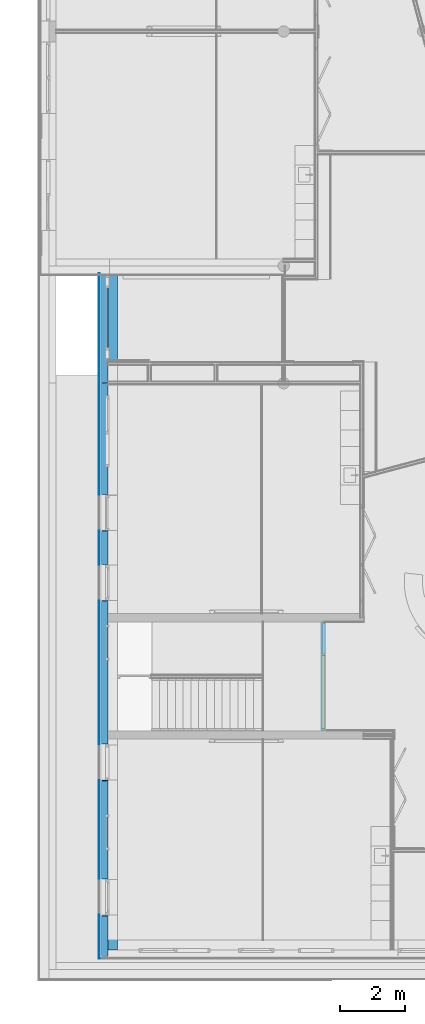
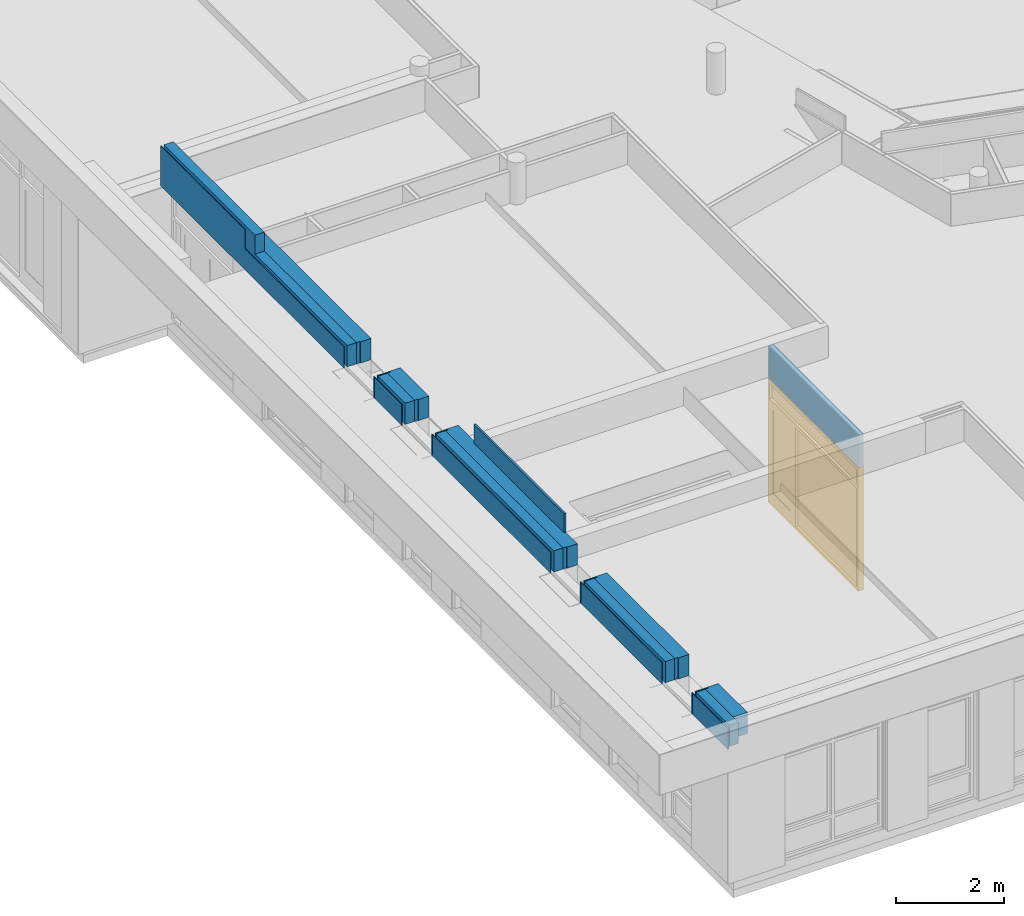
# One storey, part 48 of 167: 3 building element parts, 1 door, 5 openings, 2 elements without a shape of their own, plus 3 elements that do not belong to this part.
"""IFC2X3 building model written with IfcOpenShell, lengths in millimetres."""

from ifc_helpers import new_model, entity, si_unit, converted_unit, derived_unit, money_unit, direction, frame, origin_with_axes, place, context, subcontext, project, spatial, open_shell, faceted_brep, surface_model, material, type_object, element, fill, aggregate, save


model = new_model("IFC2X3")

# Units and contexts
model_context = context("Model", 3, precision=0.01, world=origin_with_axes(), true_north=direction((0.0, 1.0)))
plan_context = context("Plan", 3, precision=0.01, world=origin_with_axes(), true_north=direction((0.0, 1.0)))
body_context = subcontext(model_context, "Body", "Model", "MODEL_VIEW")
ifc_project = project(units=[si_unit("LENGTHUNIT", "METRE", prefix="MILLI"), si_unit("AREAUNIT", "SQUARE_METRE"), si_unit("VOLUMEUNIT", "CUBIC_METRE"), converted_unit("PLANEANGLEUNIT", "DEGREE", entity("IfcPlaneAngleMeasure", 0.0174532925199), si_unit("PLANEANGLEUNIT", "RADIAN"), dimensions=[0, 0, 0, 0, 0, 0, 0]), si_unit("SOLIDANGLEUNIT", "STERADIAN"), money_unit("EUR"), converted_unit("TIMEUNIT", "Year", entity("IfcTimeMeasure", 31556926.0), si_unit("TIMEUNIT", "SECOND"), dimensions=[0, 0, 1, 0, 0, 0, 0]), si_unit("MASSUNIT", "GRAM", prefix="KILO"), si_unit("THERMODYNAMICTEMPERATUREUNIT", "DEGREE_CELSIUS"), si_unit("LUMINOUSINTENSITYUNIT", "LUMEN"), si_unit("ENERGYUNIT", "JOULE", prefix="MEGA"), derived_unit("THERMALCONDUCTANCEUNIT", [(si_unit("POWERUNIT", "WATT"), 1), (si_unit("LENGTHUNIT", "METRE"), -1), (si_unit("THERMODYNAMICTEMPERATUREUNIT", "KELVIN"), -1)]), derived_unit("SPECIFICHEATCAPACITYUNIT", [(si_unit("ENERGYUNIT", "JOULE"), 1), (si_unit("MASSUNIT", "GRAM", prefix="KILO"), -1), (si_unit("THERMODYNAMICTEMPERATUREUNIT", "KELVIN"), -1)]), derived_unit("MASSDENSITYUNIT", [(si_unit("MASSUNIT", "GRAM", prefix="KILO"), 1), (si_unit("VOLUMEUNIT", "CUBIC_METRE"), -1)])], contexts=[model_context, plan_context])

# Site, building, storey
site_placement = place(None, origin_with_axes())
site = spatial("IfcSite", under=ifc_project, at=site_placement, Name="Site", CompositionType="ELEMENT")
building_placement = place(site_placement, origin_with_axes())
building = spatial("IfcBuilding", under=site, at=building_placement, Name="Naam gebouw", CompositionType="ELEMENT")
storey_placement = place(building_placement, origin_with_axes())
storey = spatial("IfcBuildingStorey", under=building, at=storey_placement, Name="Begane grond", CompositionType="ELEMENT", Elevation=0.0)

# Door
door_style = type_object("IfcDoorStyle", Name="D1 bl zl1-b 24", ConstructionType="NOTDEFINED", OperationType="SINGLE_SWING_RIGHT", ParameterTakesPrecedence=False, Sizeable=False)
wall_2_placement = place(storey_placement, frame((8419.25215922, 7325.0, -100.0), z_axis=(0.0, 0.0, 1.0), x_axis=(0.0, 1.0, 0.0)))
opening_5_placement = place(wall_2_placement, frame((1675.0, 0.0, 100.0), z_axis=(0.0, 0.0, 1.0), x_axis=(1.0, 0.0, 0.0)))
door_placement = place(opening_5_placement, frame((-1675.0, 0.0, 0.0), z_axis=(0.0, 0.0, 1.0), x_axis=(1.0, 0.0, 0.0)))
door = element("IfcDoor", 1, at=door_placement, inside=storey, type_object=door_style, Name="32_Deur_Hi-44", ObjectType="DOOR", OverallHeight=2800.0, OverallWidth=3350.0, context=body_context, shape_type="SurfaceModel", body=[
    faceted_brep([(0.0, 64.0, 0.0), (67.0, 64.0, 0.0), (67.0, -50.0, 0.0), (0.0, -50.0, 0.0), (0.0, 64.0, 2733.0), (67.0, 64.0, 2733.0), (67.0, 64.0, 2375.0), (67.0, 64.0, 2300.0), (67.0, 64.0, 67.0), (67.0, -50.0, 67.0), (67.0, -50.0, 2300.0), (67.0, -50.0, 2375.0), (67.0, -50.0, 2733.0), (0.0, -50.0, 2733.0)], [[[0, 1, 2, 3]], [[0, 4, 5, 6, 7, 8, 1]], [[1, 8, 9, 2]], [[3, 2, 9, 10, 11, 12, 13]], [[4, 0, 3, 13]], [[5, 4, 13, 12]], [[6, 5, 12, 11]], [[7, 6, 11, 10]], [[8, 7, 10, 9]]]),
    faceted_brep([(2383.0, 24.0, 0.0), (2383.0, 24.0, 2300.0), (2383.0, -50.0, 2300.0), (2383.0, -50.0, 0.0), (2358.0, 24.0, 2300.0), (2358.0, 24.0, 0.0), (2358.0, 64.0, 2300.0), (2316.0, 64.0, 2300.0), (2316.0, -50.0, 2300.0), (2316.0, -50.0, 0.0), (2316.0, -50.0, 67.0), (2316.0, 64.0, 0.0), (2358.0, 64.0, 0.0), (2316.0, 64.0, 67.0)], [[[0, 1, 2, 3]], [[4, 1, 0, 5]], [[4, 6, 7, 8, 2, 1]], [[9, 3, 2, 8, 10]], [[5, 0, 3, 9, 11, 12]], [[6, 4, 5, 12]], [[6, 12, 11, 13, 7]], [[13, 10, 8, 7]], [[11, 9, 10, 13]]]),
    faceted_brep([(67.0, 64.0, 67.0), (67.0, 64.0, 0.0), (67.0, -50.0, 0.0), (67.0, -50.0, 67.0), (2316.0, 64.0, 67.0), (2316.0, 64.0, 0.0), (2316.0, -50.0, 0.0), (2316.0, -50.0, 67.0)], [[[0, 1, 2, 3]], [[0, 4, 5, 1]], [[1, 5, 6, 2]], [[3, 2, 6, 7]], [[4, 0, 3, 7]], [[5, 4, 7, 6]]]),
    faceted_brep([(3308.0, 64.0, 2325.0), (3283.0, 64.0, 2325.0), (3283.0, 64.0, 2375.0), (3283.0, 64.0, 2733.0), (3350.0, 64.0, 2733.0), (3350.0, 64.0, 0.0), (3308.0, 64.0, 0.0), (3308.0, 24.0, 2325.0), (3283.0, 24.0, 2325.0), (3283.0, 24.0, 0.0), (3283.0, -50.0, 0.0), (3283.0, -50.0, 2300.0), (3283.0, -50.0, 2375.0), (3283.0, -50.0, 2733.0), (3350.0, -50.0, 2733.0), (3350.0, -50.0, 0.0), (3308.0, 24.0, 0.0)], [[[0, 1, 2, 3, 4, 5, 6]], [[1, 0, 7, 8]], [[8, 9, 10, 11, 12, 2, 1]], [[2, 12, 13, 3]], [[3, 13, 14, 4]], [[4, 14, 15, 5]], [[16, 6, 5, 15, 10, 9]], [[0, 6, 16, 7]], [[16, 9, 8, 7]], [[12, 11, 10, 15, 14, 13]]]),
    faceted_brep([(0.0, 64.0, 2800.0), (0.0, 64.0, 2733.0), (0.0, -50.0, 2733.0), (0.0, -50.0, 2800.0), (3350.0, 64.0, 2800.0), (3350.0, 64.0, 2733.0), (3283.0, 64.0, 2733.0), (67.0, 64.0, 2733.0), (67.0, -50.0, 2733.0), (3283.0, -50.0, 2733.0), (3350.0, -50.0, 2733.0), (3350.0, -50.0, 2800.0)], [[[0, 1, 2, 3]], [[0, 4, 5, 6, 7, 1]], [[1, 7, 8, 2]], [[3, 2, 8, 9, 10, 11]], [[4, 0, 3, 11]], [[5, 4, 11, 10]], [[6, 5, 10, 9]], [[7, 6, 9, 8]]]),
    faceted_brep([(3283.0, 24.0, 2325.0), (3283.0, 64.0, 2325.0), (3283.0, 64.0, 2375.0), (3283.0, -50.0, 2375.0), (3283.0, -50.0, 2300.0), (3283.0, 24.0, 2300.0), (2358.0, 24.0, 2325.0), (2358.0, 64.0, 2325.0), (2358.0, 64.0, 2300.0), (2316.0, 64.0, 2300.0), (67.0, 64.0, 2300.0), (67.0, 64.0, 2375.0), (67.0, -50.0, 2375.0), (2383.0, -50.0, 2300.0), (67.0, -50.0, 2300.0), (2316.0, -50.0, 2300.0), (2383.0, 24.0, 2300.0), (2358.0, 24.0, 2300.0)], [[[0, 1, 2, 3, 4, 5]], [[1, 0, 6, 7]], [[7, 8, 9, 10, 11, 2, 1]], [[11, 12, 3, 2]], [[13, 4, 3, 12, 14, 15]], [[16, 5, 4, 13]], [[0, 5, 16, 17, 6]], [[8, 7, 6, 17]], [[17, 16, 13, 15, 9, 8]], [[9, 15, 14, 10]], [[10, 14, 12, 11]]]),
    faceted_brep([(3308.0, 64.0, 300.0), (3308.0, 24.0, 300.0), (3158.0, 24.0, 300.0), (3158.0, 64.0, 300.0), (3308.0, 64.0, 2175.0), (3308.0, 24.0, 2175.0), (3158.0, 24.0, 2175.0), (3158.0, 64.0, 2175.0)], [[[0, 1, 2, 3]], [[4, 5, 1, 0]], [[1, 5, 6, 2]], [[3, 2, 6, 7]], [[0, 3, 7, 4]], [[7, 6, 5, 4]]]),
    faceted_brep([(2358.0, 64.0, 300.0), (2358.0, 24.0, 300.0), (2358.0, 24.0, 2175.0), (2358.0, 64.0, 2175.0), (2508.0, 64.0, 300.0), (2508.0, 24.0, 300.0), (2508.0, 24.0, 2175.0), (2508.0, 64.0, 2175.0)], [[[0, 1, 2, 3]], [[4, 5, 1, 0]], [[1, 5, 6, 2]], [[3, 2, 6, 7]], [[0, 3, 7, 4]], [[7, 6, 5, 4]]]),
    faceted_brep([(3308.0, 64.0, 0.0), (3308.0, 24.0, 0.0), (2358.0, 24.0, 0.0), (2358.0, 64.0, 0.0), (3308.0, 64.0, 300.0), (3308.0, 24.0, 300.0), (3158.0, 24.0, 300.0), (2508.0, 24.0, 300.0), (2358.0, 24.0, 300.0), (2358.0, 64.0, 300.0), (2508.0, 64.0, 300.0), (3158.0, 64.0, 300.0)], [[[0, 1, 2, 3]], [[4, 5, 1, 0]], [[1, 5, 6, 7, 8, 2]], [[3, 2, 8, 9]], [[0, 3, 9, 10, 11, 4]], [[11, 6, 5, 4]], [[10, 7, 6, 11]], [[9, 8, 7, 10]]]),
    faceted_brep([(3308.0, 64.0, 2325.0), (3308.0, 24.0, 2325.0), (3308.0, 24.0, 2175.0), (3308.0, 64.0, 2175.0), (2358.0, 64.0, 2325.0), (2358.0, 24.0, 2325.0), (2358.0, 24.0, 2175.0), (2508.0, 24.0, 2175.0), (3158.0, 24.0, 2175.0), (3158.0, 64.0, 2175.0), (2508.0, 64.0, 2175.0), (2358.0, 64.0, 2175.0)], [[[0, 1, 2, 3]], [[4, 5, 1, 0]], [[1, 5, 6, 7, 8, 2]], [[3, 2, 8, 9]], [[0, 3, 9, 10, 11, 4]], [[11, 6, 5, 4]], [[10, 7, 6, 11]], [[9, 8, 7, 10]]]),
    surface_model("IfcShellBasedSurfaceModel", [(3158.0, 50.0, 300.0), (2508.0, 50.0, 300.0), (2508.0, 50.0, 2175.0), (3158.0, 50.0, 2175.0)], [open_shell([[[0, 1, 2, 3]]])]),
    surface_model("IfcShellBasedSurfaceModel", [(3158.0, 38.0, 300.0), (3158.0, 38.0, 2175.0), (2508.0, 38.0, 2175.0), (2508.0, 38.0, 300.0)], [open_shell([[[0, 1, 2, 3]]])]),
    surface_model("IfcShellBasedSurfaceModel", [(67.0, 10.0, 2375.0), (67.0, 10.0, 2733.0), (3283.0, 10.0, 2733.0), (3283.0, 10.0, 2375.0)], [open_shell([[[0, 1, 2, 3]]])]),
    surface_model("IfcShellBasedSurfaceModel", [(67.0, -2.0, 2375.0), (3283.0, -2.0, 2375.0), (3283.0, -2.0, 2733.0), (67.0, -2.0, 2733.0)], [open_shell([[[0, 1, 2, 3]]])]),
    surface_model("IfcShellBasedSurfaceModel", [(67.0, 10.0, 67.0), (67.0, 10.0, 2300.0), (2316.0, 10.0, 2300.0), (2316.0, 10.0, 67.0)], [open_shell([[[0, 1, 2, 3]]])]),
    surface_model("IfcShellBasedSurfaceModel", [(67.0, -2.0, 67.0), (2316.0, -2.0, 67.0), (2316.0, -2.0, 2300.0), (67.0, -2.0, 2300.0)], [open_shell([[[0, 1, 2, 3]]])]),
])

# Wall, openings, building element parts
wall_type_1 = type_object("IfcWallType", Name="_TenW_21_Spouwmuur ht-kz-300- RC 4,7 574", PredefinedType="NOTDEFINED")
wall_1_placement = place(storey_placement, frame((1800.0, 21380.0, 3050.0), z_axis=(0.0, 0.0, 1.0), x_axis=(0.0, -1.0, 0.0)))
wall_1 = element("IfcWall", 2, at=wall_1_placement, inside=storey, type_object=wall_type_1, Name="21_Wand_Wand-x")
opening_1_placement = place(wall_1_placement, frame((21380.0, -1800.0, -3050.0), z_axis=(0.0, 0.0, 1.0), x_axis=(0.0, 1.0, 0.0)))
element("IfcOpeningElement", 3, at=opening_1_placement, cuts=wall_1, Name="_Lege opening_Doorvoer-x", context=body_context, shape_type="Brep", body=[
    faceted_brep([(1466.67428954, 14563.1947131, 3050.0), (1466.67428954, 14563.1947131, 3530.0), (2674.0, 14563.1947131, 3530.0), (2674.0, 14563.1947131, 3050.0), (1466.67428954, 13475.6747131, 3050.0), (1466.67428954, 13475.6747131, 3530.0), (2674.0, 13475.6747131, 3530.0), (2674.0, 13475.6747131, 3050.0)], [[[0, 1, 2, 3]], [[0, 4, 5, 1]], [[1, 5, 6, 2]], [[3, 2, 6, 7]], [[4, 0, 3, 7]], [[5, 4, 7, 6]]]),
])
opening_2_placement = place(wall_1_placement, frame((21380.0, -1800.0, -3050.0), z_axis=(0.0, 0.0, 1.0), x_axis=(0.0, 1.0, 0.0)))
element("IfcOpeningElement", 4, at=opening_2_placement, cuts=wall_1, Name="_Lege opening_Doorvoer-x", context=body_context, shape_type="Brep", body=[
    faceted_brep([(1526.0, 12413.5347131, 3050.0), (1526.0, 12413.5347131, 3530.0), (2674.0, 12413.5347131, 3530.0), (2674.0, 12413.5347131, 3050.0), (1526.0, 11326.0147131, 3050.0), (1526.0, 11326.0147131, 3530.0), (2674.0, 11326.0147131, 3530.0), (2674.0, 11326.0147131, 3050.0)], [[[0, 1, 2, 3]], [[0, 4, 5, 1]], [[1, 5, 6, 2]], [[3, 2, 6, 7]], [[4, 0, 3, 7]], [[5, 4, 7, 6]]]),
])
opening_3_placement = place(wall_1_placement, frame((21380.0, -1800.0, -3050.0), z_axis=(0.0, 0.0, 1.0), x_axis=(0.0, 1.0, 0.0)))
element("IfcOpeningElement", 5, at=opening_3_placement, cuts=wall_1, Name="_Lege opening_Doorvoer-x", context=body_context, shape_type="Brep", body=[
    faceted_brep([(1526.0, 6898.69471311, 3050.0), (1526.0, 6898.69471311, 3530.0), (2674.0, 6898.69471311, 3530.0), (2674.0, 6898.69471311, 3050.0), (1526.0, 5811.17471311, 3050.0), (1526.0, 5811.17471311, 3530.0), (2674.0, 5811.17471311, 3530.0), (2674.0, 5811.17471311, 3050.0)], [[[0, 1, 2, 3]], [[0, 4, 5, 1]], [[1, 5, 6, 2]], [[3, 2, 6, 7]], [[4, 0, 3, 7]], [[5, 4, 7, 6]]]),
])
opening_4_placement = place(wall_1_placement, frame((21380.0, -1800.0, -3050.0), z_axis=(0.0, 0.0, 1.0), x_axis=(0.0, 1.0, 0.0)))
element("IfcOpeningElement", 6, at=opening_4_placement, cuts=wall_1, Name="_Lege opening_Doorvoer-x", context=body_context, shape_type="Brep", body=[
    faceted_brep([(1526.0, 2762.56471311, 3050.0), (1526.0, 2762.56471311, 3530.0), (2674.0, 2762.56471311, 3530.0), (2674.0, 2762.56471311, 3050.0), (1526.0, 1675.04471311, 3050.0), (1526.0, 1675.04471311, 3530.0), (2674.0, 1675.04471311, 3530.0), (2674.0, 1675.04471311, 3050.0)], [[[0, 1, 2, 3]], [[0, 4, 5, 1]], [[1, 5, 6, 2]], [[3, 2, 6, 7]], [[4, 0, 3, 7]], [[5, 4, 7, 6]]]),
])
ifc_material_1 = material(Name="Steen - Kalkzandsteen C")
building_element_part_1_placement = place(wall_1_placement, origin_with_axes())
building_element_part_1 = element("IfcBuildingElementPart", 7, at=building_element_part_1_placement, material=ifc_material_1, Name="Steen - Kalkzandsteen C", context=body_context, shape_type="Brep", body=[
    faceted_brep([(19704.9552869, 82.335281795, 10.0), (19704.9552869, 82.335281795, 0.0), (19704.9552869, 0.0, 0.0), (19704.9552869, -4.0730974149e-07, 80.0), (19704.9552869, 70.0, 80.0), (19704.9552869, 70.0, 90.0), (19704.9552869, -4.58221904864e-07, 90.0), (19704.9552869, -2.44380338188e-06, 480.0), (19704.9552869, 300.0, 480.0), (19704.9552869, 300.0, 0.0), (19704.9552869, 282.0, 0.0), (19704.9552869, 282.0, 10.0), (19722.4352869, 82.335281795, 10.0), (19722.4352869, 82.335281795, 0.0), (19722.4352869, 282.0, 0.0), (20780.0, 300.0, 0.0), (20780.0, 0.0, 0.0), (19740.4352869, 0.0, 0.0), (19740.4352869, 70.0, 0.0), (19722.4352869, 70.0, 0.0), (19722.4352869, 0.0, 0.0), (19722.4352869, -3.91016996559e-07, 80.0), (19722.4352869, 70.0, 80.0), (19722.4352869, 70.0, 90.0), (19740.4352869, 70.0, 480.0), (19722.4352869, 70.0, 480.0), (19722.4352869, -4.39893454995e-07, 90.0), (19722.4352869, -2.34605224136e-06, 480.0), (20780.0, 300.0, 480.0), (19740.4352869, -2.34605224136e-06, 480.0), (20780.0, -1.28904220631e-06, 480.0), (19722.4352869, 282.0, 10.0)], [[[0, 1, 2, 3, 4, 5, 6, 7, 8, 9, 10, 11]], [[1, 0, 12, 13]], [[14, 10, 9, 15, 16, 17, 18, 19, 20, 2, 1, 13]], [[21, 3, 2, 20]], [[4, 3, 21, 22]], [[23, 5, 4, 22, 19, 18, 24, 25]], [[6, 5, 23, 26]], [[6, 26, 27, 7]], [[28, 8, 7, 27, 25, 24, 29, 30]], [[8, 28, 15, 9]], [[11, 10, 14, 31]], [[0, 11, 31, 12]], [[14, 13, 12, 31]], [[28, 30, 16, 15]], [[30, 29, 17, 16]], [[29, 24, 18, 17]], [[22, 21, 20, 19]], [[26, 23, 25, 27]]]),
    faceted_brep([(15568.8252869, 82.335281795, 10.0), (15568.8252869, 82.335281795, 0.0), (15568.8252869, 0.0, 0.0), (15568.8252869, -4.07308187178e-07, 80.0), (15568.8252869, 70.0, 80.0), (15568.8252869, 70.0, 90.0), (15568.8252869, -4.58220350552e-07, 90.0), (15568.8252869, -2.44380005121e-06, 480.0), (15568.8252869, 300.0, 480.0), (15568.8252869, 300.0, 0.0), (15568.8252869, 282.0, 0.0), (15568.8252869, 282.0, 10.0), (15586.3052869, 82.335281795, 10.0), (15586.3052869, 82.335281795, 0.0), (15586.3052869, 282.0, 0.0), (18617.4352869, 300.0, 0.0), (18617.4352869, 70.0, 0.0), (18599.4352869, 70.0, 0.0), (18599.4352869, 0.0, 0.0), (15604.3052869, 0.0, 0.0), (15604.3052869, 70.0, 0.0), (15586.3052869, 70.0, 0.0), (15586.3052869, 0.0, 0.0), (15586.3052869, -3.91015442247e-07, 80.0), (15586.3052869, 70.0, 80.0), (15586.3052869, 70.0, 90.0), (15604.3052869, 70.0, 480.0), (15586.3052869, 70.0, 480.0), (15586.3052869, -4.39891900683e-07, 90.0), (15586.3052869, -2.3460489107e-06, 480.0), (18617.4352869, 300.0, 480.0), (15604.3052869, -2.3460489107e-06, 480.0), (18599.4352869, -2.34605179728e-06, 480.0), (18599.4352869, 70.0, 480.0), (18617.4352869, 70.0, 480.0), (15586.3052869, 282.0, 10.0)], [[[0, 1, 2, 3, 4, 5, 6, 7, 8, 9, 10, 11]], [[1, 0, 12, 13]], [[14, 10, 9, 15, 16, 17, 18, 19, 20, 21, 22, 2, 1, 13]], [[23, 3, 2, 22]], [[4, 3, 23, 24]], [[25, 5, 4, 24, 21, 20, 26, 27]], [[6, 5, 25, 28]], [[6, 28, 29, 7]], [[30, 8, 7, 29, 27, 26, 31, 32, 33, 34]], [[8, 30, 15, 9]], [[11, 10, 14, 35]], [[0, 11, 35, 12]], [[14, 13, 12, 35]], [[30, 34, 16, 15]], [[34, 33, 17, 16]], [[33, 32, 18, 17]], [[32, 31, 19, 18]], [[31, 26, 20, 19]], [[24, 23, 22, 21]], [[28, 25, 27, 29]]]),
    faceted_brep([(10705.0, 255.0, 480.0), (10705.0, 255.0, 810.0), (10705.0, 255.0, 910.0), (10705.0, 300.0, 910.0), (10705.0, 300.0, 810.0), (10705.0, 300.0, 480.0), (14055.0, 255.0, 480.0), (14055.0, 255.0, 910.0), (14055.0, 300.0, 910.0), (14055.0, 300.0, 480.0), (14481.3052869, 300.0, 480.0), (14481.3052869, 300.0, 0.0), (10053.9852869, 300.0, 0.0), (10053.9852869, 300.0, 480.0), (10089.4652869, -2.34604669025e-06, 480.0), (14463.3052869, -2.34604846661e-06, 480.0), (14463.3052869, 70.0, 480.0), (14481.3052869, 70.0, 480.0), (10053.9852869, -2.44379783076e-06, 480.0), (10071.4652869, -2.34604669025e-06, 480.0), (10071.4652869, 70.0, 480.0), (10089.4652869, 70.0, 480.0), (14481.3052869, 70.0, 0.0), (10071.4652869, 282.0, 0.0), (10053.9852869, 282.0, 0.0), (14463.3052869, 70.0, 0.0), (14463.3052869, 0.0, 0.0), (10089.4652869, 0.0, 0.0), (10089.4652869, 70.0, 0.0), (10071.4652869, 70.0, 0.0), (10071.4652869, 0.0, 0.0), (10053.9852869, 0.0, 0.0), (10053.9852869, 82.335281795, 0.0), (10071.4652869, 82.335281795, 0.0), (10053.9852869, 82.335281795, 10.0), (10053.9852869, -4.07304190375e-07, 80.0), (10053.9852869, 70.0, 80.0), (10053.9852869, 70.0, 90.0), (10053.9852869, -4.58216353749e-07, 90.0), (10053.9852869, 282.0, 10.0), (10071.4652869, -4.3988790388e-07, 90.0), (10071.4652869, 70.0, 90.0), (10071.4652869, 70.0, 80.0), (10071.4652869, 282.0, 10.0), (10071.4652869, -3.91011445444e-07, 80.0), (10071.4652869, 82.335281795, 10.0)], [[[0, 1, 2, 3, 4, 5]], [[1, 0, 6, 7, 2]], [[7, 8, 3, 2]], [[5, 4, 3, 8, 9, 10, 11, 12, 13]], [[14, 15, 16, 17, 10, 9, 6, 0, 5, 13, 18, 19, 20, 21]], [[6, 9, 8, 7]], [[10, 17, 22, 11]], [[23, 24, 12, 11, 22, 25, 26, 27, 28, 29, 30, 31, 32, 33]], [[34, 32, 31, 35, 36, 37, 38, 18, 13, 12, 24, 39]], [[14, 27, 26, 15]], [[16, 15, 26, 25]], [[17, 16, 25, 22]], [[38, 40, 19, 18]], [[40, 41, 20, 19]], [[41, 37, 36, 42, 29, 28, 21, 20]], [[14, 21, 28, 27]], [[39, 24, 23, 43]], [[42, 44, 30, 29]], [[44, 35, 31, 30]], [[32, 34, 45, 33]], [[23, 33, 45, 43]], [[36, 35, 44, 42]], [[38, 37, 41, 40]], [[34, 39, 43, 45]]]),
    faceted_brep([(7904.32528689, 82.335281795, 10.0), (7904.32528689, 82.335281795, 0.0), (7904.32528689, 0.0, 0.0), (7904.32528689, -4.07303302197e-07, 80.0), (7904.32528689, 70.0, 80.0), (7904.32528689, 70.0, 90.0), (7904.32528689, -4.58215465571e-07, 90.0), (7904.32528689, -2.44379694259e-06, 480.0), (7904.32528689, 300.0, 480.0), (7904.32528689, 300.0, 0.0), (7904.32528689, 282.0, 0.0), (7904.32528689, 282.0, 10.0), (7921.80528689, 82.335281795, 10.0), (7921.80528689, 82.335281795, 0.0), (7921.80528689, 282.0, 0.0), (8966.46528689, 300.0, 0.0), (8966.46528689, 70.0, 0.0), (8948.46528689, 70.0, 0.0), (8948.46528689, 0.0, 0.0), (7939.80528689, 0.0, 0.0), (7939.80528689, 70.0, 0.0), (7921.80528689, 70.0, 0.0), (7921.80528689, 0.0, 0.0), (7921.80528689, -3.91010557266e-07, 80.0), (7921.80528689, 70.0, 80.0), (7921.80528689, 70.0, 90.0), (7939.80528689, 70.0, 480.0), (7921.80528689, 70.0, 480.0), (7921.80528689, -4.39887015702e-07, 90.0), (7921.80528689, -2.34604580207e-06, 480.0), (8966.46528689, 300.0, 480.0), (7939.80528689, -2.34604580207e-06, 480.0), (8948.46528689, -2.34604624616e-06, 480.0), (8948.46528689, 70.0, 480.0), (8966.46528689, 70.0, 480.0), (7921.80528689, 282.0, 10.0)], [[[0, 1, 2, 3, 4, 5, 6, 7, 8, 9, 10, 11]], [[1, 0, 12, 13]], [[14, 10, 9, 15, 16, 17, 18, 19, 20, 21, 22, 2, 1, 13]], [[23, 3, 2, 22]], [[4, 3, 23, 24]], [[25, 5, 4, 24, 21, 20, 26, 27]], [[6, 5, 25, 28]], [[6, 28, 29, 7]], [[30, 8, 7, 29, 27, 26, 31, 32, 33, 34]], [[8, 30, 15, 9]], [[11, 10, 14, 35]], [[0, 11, 35, 12]], [[14, 13, 12, 35]], [[30, 34, 16, 15]], [[34, 33, 17, 16]], [[33, 32, 18, 17]], [[32, 31, 19, 18]], [[31, 26, 20, 19]], [[24, 23, 22, 21]], [[28, 25, 27, 29]]]),
    faceted_brep([(3380.0, 0.0, 480.0), (6798.80528689, -2.34604535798e-06, 480.0), (6798.80528689, 70.0, 480.0), (6816.80528689, 70.0, 480.0), (6816.80528689, 300.0, 480.0), (0.0, 300.0, 480.0), (0.0, 0.0, 480.0), (0.0, 0.0, 0.0), (6798.80528689, 0.0, 0.0), (6798.80528689, 70.0, 0.0), (6816.80528689, 70.0, 0.0), (6816.80528689, 300.0, 0.0), (0.0, 300.0, 0.0)], [[[0, 1, 2, 3, 4, 5, 6]], [[1, 0, 6, 7, 8]], [[2, 1, 8, 9]], [[3, 2, 9, 10]], [[4, 3, 10, 11]], [[4, 11, 12, 5]], [[6, 5, 12, 7]], [[10, 9, 8, 7, 12, 11]]]),
])
ifc_material_2 = material(Name="Isolatie - Steenwol zacht")
building_element_part_2_placement = place(wall_1_placement, origin_with_axes())
building_element_part_2 = element("IfcBuildingElementPart", 8, at=building_element_part_2_placement, material=ifc_material_2, Name="Isolatie - Steenwol zacht", context=body_context, shape_type="Brep", body=[
    faceted_brep([(19740.4352869, -200.000001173, 480.0), (19740.4352869, 0.0, 480.0), (19740.4352869, 0.0, 0.0), (19740.4352869, -200.0, 0.0), (20980.0, -1.6068892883e-06, 480.0), (20980.0, -200.000000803, 480.0), (20980.0, 0.0, 0.0), (20980.0, -200.0, 0.0)], [[[0, 1, 2, 3]], [[4, 1, 0, 5]], [[1, 4, 6, 2]], [[7, 3, 2, 6]], [[5, 0, 3, 7]], [[4, 5, 7, 6]]]),
    faceted_brep([(19704.9552869, -200.0, 80.0), (19704.9552869, -4.0730974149e-07, 80.0), (19704.9552869, 0.0, 0.0), (19704.9552869, -200.0, 0.0), (19722.4352869, 0.0, 80.0), (19722.4352869, -200.0, 80.0), (19722.4352869, 0.0, 0.0), (19722.4352869, -200.0, 0.0)], [[[0, 1, 2, 3]], [[4, 1, 0, 5]], [[1, 4, 6, 2]], [[2, 6, 7, 3]], [[5, 0, 3, 7]], [[4, 5, 7, 6]]]),
    faceted_brep([(15604.3052869, -200.000001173, 480.0), (15604.3052869, 0.0, 480.0), (15604.3052869, 0.0, 0.0), (15604.3052869, -200.0, 0.0), (18599.4352869, 0.0, 480.0), (18599.4352869, -200.000001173, 480.0), (18599.4352869, 0.0, 0.0), (18599.4352869, -200.0, 0.0)], [[[0, 1, 2, 3]], [[4, 1, 0, 5]], [[1, 4, 6, 2]], [[2, 6, 7, 3]], [[5, 0, 3, 7]], [[4, 5, 7, 6]]]),
    faceted_brep([(15568.8252869, -200.0, 80.0), (15568.8252869, -4.07306410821e-07, 80.0), (15568.8252869, 0.0, 0.0), (15568.8252869, -200.0, 0.0), (15586.3052869, 0.0, 80.0), (15586.3052869, -200.0, 80.0), (15586.3052869, 0.0, 0.0), (15586.3052869, -200.0, 0.0)], [[[0, 1, 2, 3]], [[4, 1, 0, 5]], [[1, 4, 6, 2]], [[2, 6, 7, 3]], [[5, 0, 3, 7]], [[4, 5, 7, 6]]]),
    faceted_brep([(10089.4652869, -200.000001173, 480.0), (14463.3052869, -200.000001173, 480.0), (14463.3052869, 0.0, 480.0), (10089.4652869, 0.0, 480.0), (10089.4652869, -200.0, 0.0), (14463.3052869, -200.0, 0.0), (14463.3052869, 0.0, 0.0), (10089.4652869, 0.0, 0.0)], [[[0, 1, 2, 3]], [[0, 4, 5, 1]], [[2, 1, 5, 6]], [[2, 6, 7, 3]], [[0, 3, 7, 4]], [[7, 6, 5, 4]]]),
    faceted_brep([(10053.9852869, -200.0, 80.0), (10053.9852869, -4.07304190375e-07, 80.0), (10053.9852869, 0.0, 0.0), (10053.9852869, -200.0, 0.0), (10071.4652869, 0.0, 80.0), (10071.4652869, -200.0, 80.0), (10071.4652869, 0.0, 0.0), (10071.4652869, -200.0, 0.0)], [[[0, 1, 2, 3]], [[4, 1, 0, 5]], [[1, 4, 6, 2]], [[2, 6, 7, 3]], [[5, 0, 3, 7]], [[4, 5, 7, 6]]]),
    faceted_brep([(7939.80528689, -200.000001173, 480.0), (7939.80528689, 0.0, 480.0), (7939.80528689, 0.0, 0.0), (7939.80528689, -200.0, 0.0), (8948.46528689, 0.0, 480.0), (8948.46528689, -200.000001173, 480.0), (8948.46528689, 0.0, 0.0), (8948.46528689, -200.0, 0.0)], [[[0, 1, 2, 3]], [[4, 1, 0, 5]], [[1, 4, 6, 2]], [[2, 6, 7, 3]], [[5, 0, 3, 7]], [[4, 5, 7, 6]]]),
    faceted_brep([(7904.32528689, -200.0, 80.0), (7904.32528689, -4.07303302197e-07, 80.0), (7904.32528689, 0.0, 0.0), (7904.32528689, -200.0, 0.0), (7921.80528689, 0.0, 80.0), (7921.80528689, -200.0, 80.0), (7921.80528689, 0.0, 0.0), (7921.80528689, -200.0, 0.0)], [[[0, 1, 2, 3]], [[4, 1, 0, 5]], [[1, 4, 6, 2]], [[2, 6, 7, 3]], [[5, 0, 3, 7]], [[4, 5, 7, 6]]]),
    faceted_brep([(6798.80528689, -200.000001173, 480.0), (3594.0, -200.000001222, 480.0), (3380.0, -200.000001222, 479.999998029), (3380.0, -200.000000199, 909.999998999), (0.0, -200.0, 910.0), (0.0, -200.0, 0.0), (6798.80528689, -200.0, 0.0), (6798.80528689, 0.0, 480.0), (3594.0, 0.0, 480.0), (3380.0, 0.0, 479.999997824), (3380.0, -3.974995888e-07, 909.999998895), (0.0, 0.0, 910.0), (0.0, 0.0, 0.0), (6798.80528689, 0.0, 0.0)], [[[0, 1, 2, 3, 4, 5, 6]], [[7, 8, 9, 2, 1, 0]], [[2, 9, 10, 3]], [[4, 3, 10, 11]], [[12, 5, 4, 11]], [[12, 13, 6, 5]], [[7, 0, 6, 13]], [[8, 7, 13, 12, 11, 10, 9]]]),
    faceted_brep([(7921.80528689, 0.0, 90.0), (7904.32528689, -4.58215465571e-07, 90.0), (7904.32528689, -2.44379694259e-06, 480.0), (7921.80528689, 0.0, 480.0), (7904.32528689, -200.0, 90.0), (7921.80528689, -200.0, 90.0), (7904.32528689, -200.000001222, 480.0), (7921.80528689, -200.000001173, 480.0)], [[[0, 1, 2, 3]], [[4, 1, 0, 5]], [[1, 4, 6, 2]], [[3, 2, 6, 7]], [[5, 0, 3, 7]], [[4, 5, 7, 6]]]),
    faceted_brep([(10071.4652869, 0.0, 90.0), (10053.9852869, -4.58216353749e-07, 90.0), (10053.9852869, -2.44379783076e-06, 480.0), (10071.4652869, 0.0, 480.0), (10053.9852869, -200.0, 90.0), (10071.4652869, -200.0, 90.0), (10053.9852869, -200.000001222, 480.0), (10071.4652869, -200.000001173, 480.0)], [[[0, 1, 2, 3]], [[4, 1, 0, 5]], [[1, 4, 6, 2]], [[3, 2, 6, 7]], [[5, 0, 3, 7]], [[4, 5, 7, 6]]]),
    faceted_brep([(15586.3052869, 0.0, 90.0), (15568.8252869, -4.58218574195e-07, 90.0), (15568.8252869, -2.44380005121e-06, 480.0), (15586.3052869, 0.0, 480.0), (15568.8252869, -200.0, 90.0), (15586.3052869, -200.0, 90.0), (15568.8252869, -200.000001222, 480.0), (15586.3052869, -200.000001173, 480.0)], [[[0, 1, 2, 3]], [[4, 1, 0, 5]], [[1, 4, 6, 2]], [[3, 2, 6, 7]], [[5, 0, 3, 7]], [[4, 5, 7, 6]]]),
    faceted_brep([(19722.4352869, 0.0, 90.0), (19704.9552869, -4.58221904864e-07, 90.0), (19704.9552869, -2.44380338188e-06, 480.0), (19722.4352869, 0.0, 480.0), (19704.9552869, -200.0, 90.0), (19722.4352869, -200.0, 90.0), (19704.9552869, -200.000001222, 480.0), (19722.4352869, -200.000001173, 480.0)], [[[0, 1, 2, 3]], [[4, 1, 0, 5]], [[1, 4, 6, 2]], [[3, 2, 6, 7]], [[5, 0, 3, 7]], [[4, 5, 7, 6]]]),
])
ifc_material_3 = material(Name="_TenW_21_Hout betimmering")
building_element_part_3_placement = place(wall_1_placement, origin_with_axes())
building_element_part_3 = element("IfcBuildingElementPart", 9, at=building_element_part_3_placement, material=ifc_material_3, Name="_TenW_21_Hout betimmering", context=body_context, shape_type="Brep", body=[
    faceted_brep([(19740.4352869, -274.0, 480.0), (19740.4352869, -256.0, 480.0), (19740.4352869, -256.0, 0.0), (19740.4352869, -274.0, 0.0), (21054.0, -256.000000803, 480.0), (21054.0, -274.0, 480.0), (21054.0, -256.0, 0.0), (21054.0, -274.0, 0.0)], [[[0, 1, 2, 3]], [[4, 1, 0, 5]], [[1, 4, 6, 2]], [[7, 3, 2, 6]], [[5, 0, 3, 7]], [[4, 5, 7, 6]]]),
    faceted_brep([(19704.9552869, -274.0, 480.0), (19704.9552869, -256.000001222, 480.0), (19704.9552869, -256.0, 0.0), (19704.9552869, -274.0, 0.0), (19722.4352869, -256.0, 480.0), (19722.4352869, -274.0, 480.0), (19722.4352869, -256.0, 0.0), (19722.4352869, -274.0, 0.0)], [[[0, 1, 2, 3]], [[4, 1, 0, 5]], [[1, 4, 6, 2]], [[2, 6, 7, 3]], [[5, 0, 3, 7]], [[4, 5, 7, 6]]]),
    faceted_brep([(15604.3052869, -274.0, 480.0), (15604.3052869, -256.0, 480.0), (15604.3052869, -256.0, 0.0), (15604.3052869, -274.0, 0.0), (18599.4352869, -256.0, 480.0), (18599.4352869, -274.0, 480.0), (18599.4352869, -256.0, 0.0), (18599.4352869, -274.0, 0.0)], [[[0, 1, 2, 3]], [[4, 1, 0, 5]], [[1, 4, 6, 2]], [[2, 6, 7, 3]], [[5, 0, 3, 7]], [[4, 5, 7, 6]]]),
    faceted_brep([(15568.8252869, -274.0, 480.0), (15568.8252869, -256.000001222, 480.0), (15568.8252869, -256.0, 0.0), (15568.8252869, -274.0, 0.0), (15586.3052869, -256.0, 480.0), (15586.3052869, -274.0, 480.0), (15586.3052869, -256.0, 0.0), (15586.3052869, -274.0, 0.0)], [[[0, 1, 2, 3]], [[4, 1, 0, 5]], [[1, 4, 6, 2]], [[2, 6, 7, 3]], [[5, 0, 3, 7]], [[4, 5, 7, 6]]]),
    faceted_brep([(10089.4652869, -274.0, 480.0), (14463.3052869, -274.0, 480.0), (14463.3052869, -256.0, 480.0), (10089.4652869, -256.0, 480.0), (10089.4652869, -274.0, 0.0), (14463.3052869, -274.0, 0.0), (14463.3052869, -256.0, 0.0), (10089.4652869, -256.0, 0.0)], [[[0, 1, 2, 3]], [[0, 4, 5, 1]], [[2, 1, 5, 6]], [[2, 6, 7, 3]], [[0, 3, 7, 4]], [[7, 6, 5, 4]]]),
    faceted_brep([(10053.9852869, -274.0, 480.0), (10053.9852869, -256.000001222, 480.0), (10053.9852869, -256.0, 0.0), (10053.9852869, -274.0, 0.0), (10071.4652869, -256.0, 480.0), (10071.4652869, -274.0, 480.0), (10071.4652869, -256.0, 0.0), (10071.4652869, -274.0, 0.0)], [[[0, 1, 2, 3]], [[4, 1, 0, 5]], [[1, 4, 6, 2]], [[2, 6, 7, 3]], [[5, 0, 3, 7]], [[4, 5, 7, 6]]]),
    faceted_brep([(7939.80528689, -274.0, 480.0), (7939.80528689, -256.0, 480.0), (7939.80528689, -256.0, 0.0), (7939.80528689, -274.0, 0.0), (8948.46528689, -256.0, 480.0), (8948.46528689, -274.0, 480.0), (8948.46528689, -256.0, 0.0), (8948.46528689, -274.0, 0.0)], [[[0, 1, 2, 3]], [[4, 1, 0, 5]], [[1, 4, 6, 2]], [[2, 6, 7, 3]], [[5, 0, 3, 7]], [[4, 5, 7, 6]]]),
    faceted_brep([(7904.32528689, -274.0, 480.0), (7904.32528689, -256.000001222, 480.0), (7904.32528689, -256.0, 0.0), (7904.32528689, -274.0, 0.0), (7921.80528689, -256.0, 480.0), (7921.80528689, -274.0, 480.0), (7921.80528689, -256.0, 0.0), (7921.80528689, -274.0, 0.0)], [[[0, 1, 2, 3]], [[4, 1, 0, 5]], [[1, 4, 6, 2]], [[2, 6, 7, 3]], [[5, 0, 3, 7]], [[4, 5, 7, 6]]]),
    faceted_brep([(6798.80528689, -274.0, 480.0), (3594.0, -274.0, 480.0), (3124.0, -274.0, 479.999998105), (3124.0, -274.0, 909.999999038), (0.0, -274.0, 910.0), (0.0, -274.0, 0.0), (6798.80528689, -274.0, 0.0), (6798.80528689, -256.0, 480.0), (3594.0, -256.0, 480.0), (3124.0, -256.0, 479.999998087), (3124.0, -256.000000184, 909.999999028), (0.0, -256.0, 910.0), (0.0, -256.0, 0.0), (6798.80528689, -256.0, 0.0)], [[[0, 1, 2, 3, 4, 5, 6]], [[7, 8, 9, 2, 1, 0]], [[2, 9, 10, 3]], [[4, 3, 10, 11]], [[12, 5, 4, 11]], [[12, 13, 6, 5]], [[7, 0, 6, 13]], [[8, 7, 13, 12, 11, 10, 9]]]),
])
aggregate(wall_1, [building_element_part_1, building_element_part_2, building_element_part_3])

# Wall, opening
wall_type_2 = type_object("IfcWallType", Name="_TenW_22_Metalstud 100 enkel gipsvezelplaat 100", PredefinedType="NOTDEFINED")
wall_2 = element("IfcWall", 10, at=wall_2_placement, inside=storey, type_object=wall_type_2, Name="22_Wand_Wand-x")
opening_5 = element("IfcOpeningElement", 11, at=opening_5_placement, cuts=wall_2, Name="32_Deur_Hi-44", context=body_context, shape_type="Brep", body=[
    faceted_brep([(1675.0, 100.0, 0.0), (1675.0, 100.0, 2800.0), (1675.0, -200.0, 2800.0), (1675.0, -200.0, 0.0), (-1675.0, 100.0, 0.0), (-1675.0, 100.0, 2800.0), (-1675.0, -200.0, 2800.0), (-1675.0, -200.0, 0.0)], [[[0, 1, 2, 3]], [[0, 4, 5, 1]], [[1, 5, 6, 2]], [[3, 2, 6, 7]], [[4, 0, 3, 7]], [[5, 4, 7, 6]]]),
])

fill(opening_5, door)

# Building element part
ifc_material_4 = material(Name="Gipsplaat watervast")
building_element_part_4_placement = place(wall_2_placement, origin_with_axes())
building_element_part_4 = element("IfcBuildingElementPart", 12, at=building_element_part_4_placement, material=ifc_material_4, Name="Gipsplaat watervast", context=body_context, shape_type="Brep", body=[
    faceted_brep([(2.50000004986, 37.4999997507, 100.0), (2.50000004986, 37.4999997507, 2900.0), (3350.0, 37.4999927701, 2900.0), (3350.0, 37.4999909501, 3629.99999709), (0.0, 37.4999909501, 3629.99999709), (0.0, 37.4999997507, 100.0), (2.96645286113e-06, 49.9999851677, 100.0), (2.96645286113e-06, 49.9999851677, 1300.0), (2.96645286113e-06, 49.9999851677, 2900.0), (3350.0, 49.9999851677, 2900.0), (3350.0, 49.9999995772, 3629.99999709), (0.0, 49.9999995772, 3629.99999709)], [[[0, 1, 2, 3, 4, 5]], [[1, 0, 6, 7, 8]], [[9, 2, 1, 8]], [[2, 9, 10, 3]], [[11, 4, 3, 10]], [[7, 6, 5, 4, 11, 8]], [[6, 0, 5]], [[9, 8, 11, 10]]]),
])

building_element_part_5_placement = place(wall_2_placement, origin_with_axes())
building_element_part_5 = element("IfcBuildingElementPart", 13, at=building_element_part_5_placement, material=ifc_material_2, Name="Isolatie - Steenwol zacht", context=body_context, shape_type="Brep", body=[
    faceted_brep([(17.4999999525, -37.4999997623, 100.0), (17.4999999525, -37.4999997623, 2900.0), (3350.0, -37.4999931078, 2900.0), (3350.0, -37.4999913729, 3629.99999709), (0.0, -37.4999913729, 3629.99999709), (0.0, -37.4999997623, 100.0), (2.50000004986, 37.4999997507, 100.0), (2.50000004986, 37.4999997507, 2900.0), (3350.0, 37.4999927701, 2900.0), (3350.0, 37.4999909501, 3629.99999709), (0.0, 37.4999909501, 3629.99999709), (0.0, 37.4999997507, 100.0)], [[[0, 1, 2, 3, 4, 5]], [[1, 0, 6, 7]], [[8, 2, 1, 7]], [[2, 8, 9, 3]], [[10, 4, 3, 9]], [[10, 11, 5, 4]], [[6, 0, 5, 11]], [[7, 6, 11, 10, 9, 8]]]),
])

building_element_part_6_placement = place(wall_2_placement, origin_with_axes())
building_element_part_6 = element("IfcBuildingElementPart", 14, at=building_element_part_6_placement, material=ifc_material_4, Name="Gipsplaat watervast", context=body_context, shape_type="Brep", body=[
    faceted_brep([(20.0, -50.0, 1300.0), (20.0, -50.0, 2900.0), (3350.0, -50.0, 2900.0), (3350.0, -50.0, 3629.99999709), (0.0, -50.0, 3629.99999709), (0.0, -50.0, 1300.0), (17.499998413, -37.4999920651, 1300.0), (17.4999982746, -37.4999913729, 2900.0), (3350.0, -37.4999931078, 2900.0), (3350.0, -37.4999913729, 3629.99999709), (0.0, -37.4999913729, 3629.99999709), (0.0, -37.4999969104, 1300.0)], [[[0, 1, 2, 3, 4, 5]], [[1, 0, 6, 7]], [[8, 2, 1, 7]], [[2, 8, 9, 3]], [[9, 10, 4, 3]], [[4, 10, 11, 5]], [[6, 0, 5, 11]], [[7, 6, 11, 10, 9, 8]]]),
])

aggregate(wall_2, [building_element_part_4, building_element_part_5, building_element_part_6])

save(model, "model.ifc")
